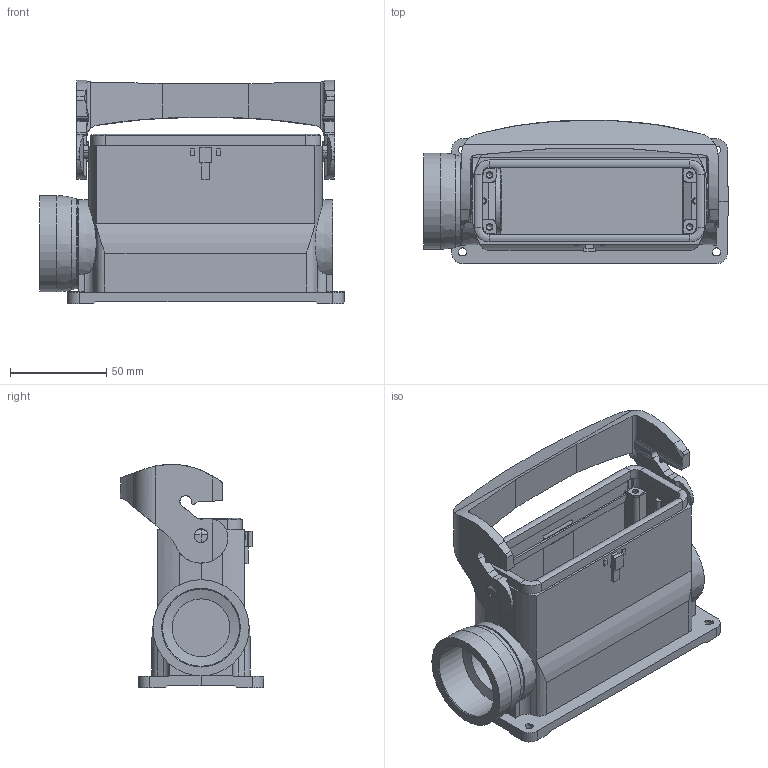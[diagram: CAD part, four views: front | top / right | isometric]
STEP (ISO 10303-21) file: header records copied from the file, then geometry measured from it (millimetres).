
FILE_DESCRIPTION(/* description */ (''),/* implementation_level */ '2;1');
FILE_NAME(/* name */ '100769302ugm000_b.stp',/* time_stamp */ '2022-03-12T07:36:57+01:00',/* author */ (''),/* organization */ (''),/* preprocessor_version */ 'ST-DEVELOPER v16.7',/* originating_system */ 'SIEMENS PLM Software NX 1911',/* authorisation */ '');
FILE_SCHEMA (('AUTOMOTIVE_DESIGN { 1 0 10303 214 3 1 1 1 }'));
Length unit declared in the file: millimetre
Products named in the file (1): 100769302ugm000_b
Bounding box: 158.1 x 74.39 x 116.04 mm (x, y, z)
Volume: 255301.1 mm3; surface area: 98254.2 mm2
Topology: 2 solids, 2 shells, 652 faces, 1983 edges, 1529 vertices
Faces by surface type: plane 415, cylinder 148, cone 66, bspline 14, torus 6, extrusion 3
Full cylindrical faces by diameter (mm): 1.594 x1, 1.884 x1, 3 x4, 3.4 x4, 3.5 x4, 7.2 x2, 30 x1, 40 x1, 46.4 x1, 49.95 x1
Entity records: 27529 total; most frequent: CARTESIAN_POINT 5164, ORIENTED_EDGE 3492, DIRECTION 3452, EDGE_CURVE 1746, VECTOR 1212, LINE 1209, VERTEX_POINT 1172, AXIS2_PLACEMENT_3D 1120
